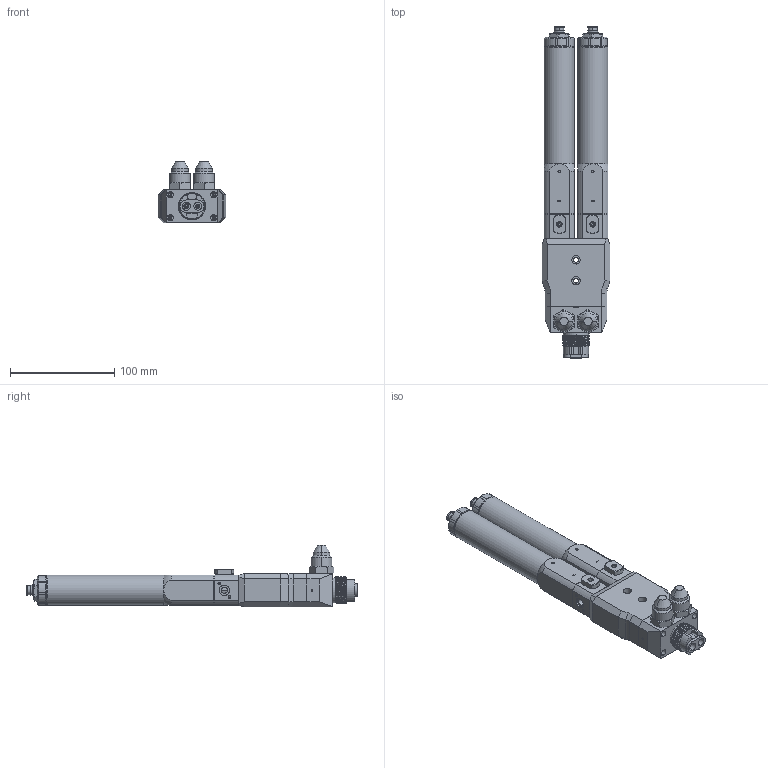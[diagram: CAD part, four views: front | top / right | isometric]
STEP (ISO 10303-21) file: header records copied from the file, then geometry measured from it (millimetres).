
FILE_DESCRIPTION (( 'STEP AP214' ), '1' );
FILE_NAME ('PDPM-500FA.STEP', '2024-10-11T12:13:20', ( '' ), ( '' ), 'SwSTEP 2.0', 'SolidWorks 2024', '' );
FILE_SCHEMA (( 'AUTOMOTIVE_DESIGN' ));
Length unit declared in the file: millimetre
Products named in the file (1): PDPM-500FA
Bounding box: 65 x 318 x 59.3 mm (x, y, z)
Volume: 469712.5 mm3; surface area: 105228.5 mm2
Topology: 12 solids, 12 shells, 1077 faces, 2616 edges, 1646 vertices
Faces by surface type: plane 437, cylinder 400, cone 211, torus 12, bspline 9, sphere 8
Full cylindrical faces by diameter (mm): 29 x2
Entity records: 39490 total; most frequent: CARTESIAN_POINT 14539, ORIENTED_EDGE 5164, DIRECTION 5148, EDGE_CURVE 2582, AXIS2_PLACEMENT_3D 2038, VERTEX_POINT 1646, EDGE_LOOP 1230, FACE_OUTER_BOUND 1079
